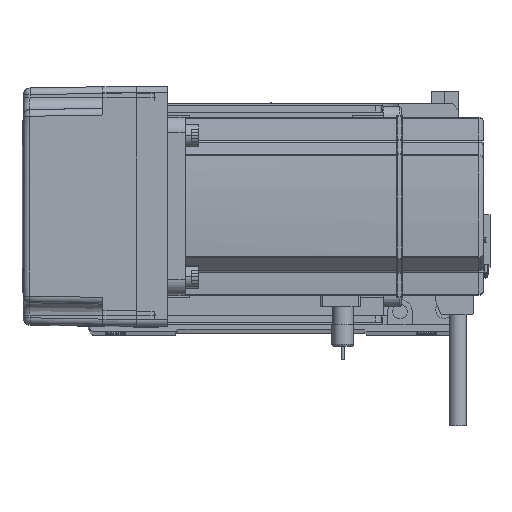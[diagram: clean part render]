
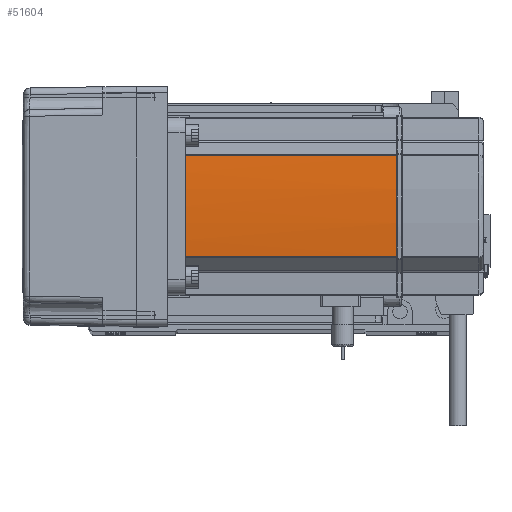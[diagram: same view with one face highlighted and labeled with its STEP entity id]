
A CAD part, top view. The second image highlights one B-rep face of the part: STEP entity #51604.
In plain terms, the highlighted cylindrical face has radius 270 mm (diameter 540 mm), a partial arc.
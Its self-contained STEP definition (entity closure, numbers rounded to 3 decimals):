
#1500 = ORIENTED_EDGE ( 'NONE', *, *, #35528, .T. ) ;
#2431 = CIRCLE ( 'NONE', #19510, 270. ) ;
#2556 = DIRECTION ( 'NONE',  ( -1., 0., 0. ) ) ;
#3305 = ORIENTED_EDGE ( 'NONE', *, *, #3932, .T. ) ;
#3929 = CARTESIAN_POINT ( 'NONE',  ( -230., 0., 134. ) ) ;
#3932 = EDGE_CURVE ( 'NONE', #28978, #48260, #2431, .T. ) ;
#4511 = DIRECTION ( 'NONE',  ( 0., 0., -1. ) ) ;
#4884 = CARTESIAN_POINT ( 'NONE',  ( -230., 0., 134. ) ) ;
#7875 = CARTESIAN_POINT ( 'NONE',  ( 40., 0.042, 134. ) ) ;
#8415 = DIRECTION ( 'NONE',  ( -1., 0., 0. ) ) ;
#9539 = DIRECTION ( 'NONE',  ( -1., 0., 0. ) ) ;
#12679 = ORIENTED_EDGE ( 'NONE', *, *, #16601, .F. ) ;
#13400 = EDGE_LOOP ( 'NONE', ( #47694, #16111, #40381, #3305, #12679, #1500 ) ) ;
#15327 = CARTESIAN_POINT ( 'NONE',  ( 40., -0.127, 134. ) ) ;
#16111 = ORIENTED_EDGE ( 'NONE', *, *, #51229, .F. ) ;
#16131 = CARTESIAN_POINT ( 'NONE',  ( 40., -0.127, 134. ) ) ;
#16193 = CYLINDRICAL_SURFACE ( 'NONE', #41030, 270. ) ;
#16601 = EDGE_CURVE ( 'NONE', #57426, #48260, #26672, .T. ) ;
#17427 = VERTEX_POINT ( 'NONE', #45405 ) ;
#18768 = DIRECTION ( 'NONE',  ( 0., 0., -1. ) ) ;
#19259 = CARTESIAN_POINT ( 'NONE',  ( 40., 0.127, 134. ) ) ;
#19510 = AXIS2_PLACEMENT_3D ( 'NONE', #3929, #4511, #8415 ) ;
#20002 = CARTESIAN_POINT ( 'NONE',  ( 39.042, 22.724, 58. ) ) ;
#21065 = CARTESIAN_POINT ( 'NONE',  ( 40., -0.042, 134. ) ) ;
#21969 = CARTESIAN_POINT ( 'NONE',  ( 39.042, 22.724, 134. ) ) ;
#22861 = CARTESIAN_POINT ( 'NONE',  ( 39.042, -22.724, 39. ) ) ;
#23759 = LINE ( 'NONE', #20002, #34218 ) ;
#24866 = DIRECTION ( 'NONE',  ( 0., 0., 1. ) ) ;
#24888 = DIRECTION ( 'NONE',  ( 0., 0., -1. ) ) ;
#26672 = B_SPLINE_CURVE_WITH_KNOTS ( 'NONE', 3,
 ( #16131, #21065, #7875, #52544 ),
 .UNSPECIFIED., .F., .F.,
 ( 4, 4 ),
 ( 0., 1. ),
 .UNSPECIFIED. ) ;
#28978 = VERTEX_POINT ( 'NONE', #21969 ) ;
#29368 = VERTEX_POINT ( 'NONE', #30670 ) ;
#30670 = CARTESIAN_POINT ( 'NONE',  ( 39.042, -22.724, 134. ) ) ;
#30710 = VECTOR ( 'NONE', #36688, 1000. ) ;
#31579 = FACE_OUTER_BOUND ( 'NONE', #13400, .T. ) ;
#33471 = AXIS2_PLACEMENT_3D ( 'NONE', #51684, #24888, #2556 ) ;
#34168 = LINE ( 'NONE', #41984, #30710 ) ;
#34218 = VECTOR ( 'NONE', #24866, 1000. ) ;
#35528 = EDGE_CURVE ( 'NONE', #57426, #29368, #37774, .T. ) ;
#36688 = DIRECTION ( 'NONE',  ( 0., 0., -1. ) ) ;
#36966 = EDGE_CURVE ( 'NONE', #29368, #39225, #34168, .T. ) ;
#37774 = CIRCLE ( 'NONE', #54176, 270. ) ;
#39225 = VERTEX_POINT ( 'NONE', #22861 ) ;
#40381 = ORIENTED_EDGE ( 'NONE', *, *, #45166, .T. ) ;
#41030 = AXIS2_PLACEMENT_3D ( 'NONE', #41252, #18768, #50058 ) ;
#41252 = CARTESIAN_POINT ( 'NONE',  ( -230., 0., 58. ) ) ;
#41984 = CARTESIAN_POINT ( 'NONE',  ( 39.042, -22.724, 58. ) ) ;
#44330 = CIRCLE ( 'NONE', #33471, 270. ) ;
#45166 = EDGE_CURVE ( 'NONE', #17427, #28978, #23759, .T. ) ;
#45250 = DIRECTION ( 'NONE',  ( 0., 0., -1. ) ) ;
#45405 = CARTESIAN_POINT ( 'NONE',  ( 39.042, 22.724, 39. ) ) ;
#47694 = ORIENTED_EDGE ( 'NONE', *, *, #36966, .T. ) ;
#48260 = VERTEX_POINT ( 'NONE', #19259 ) ;
#50058 = DIRECTION ( 'NONE',  ( -1., 0., 0. ) ) ;
#51229 = EDGE_CURVE ( 'NONE', #17427, #39225, #44330, .T. ) ;
#51604 = ADVANCED_FACE ( 'NONE', ( #31579 ), #16193, .T. ) ;
#51684 = CARTESIAN_POINT ( 'NONE',  ( -230., 0., 39. ) ) ;
#52544 = CARTESIAN_POINT ( 'NONE',  ( 40., 0.127, 134. ) ) ;
#54176 = AXIS2_PLACEMENT_3D ( 'NONE', #4884, #45250, #9539 ) ;
#57426 = VERTEX_POINT ( 'NONE', #15327 ) ;
